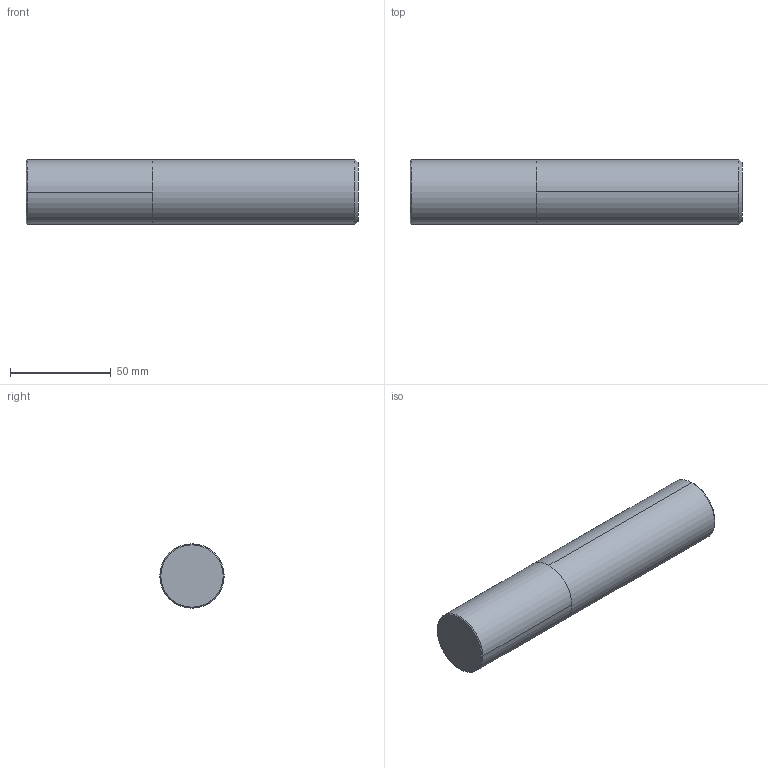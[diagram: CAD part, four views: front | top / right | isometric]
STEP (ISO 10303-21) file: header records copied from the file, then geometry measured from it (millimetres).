
FILE_DESCRIPTION (( 'STEP AP203' ), '1' );
FILE_NAME ('03-1776.STEP', '2021-09-10T07:26:27', ( 'USER' ), ( 'Hewlett-Packard Company' ), 'SwSTEP 2.0', 'SolidWorks 2014', '' );
FILE_SCHEMA (( 'CONFIG_CONTROL_DESIGN' ));
Length unit declared in the file: millimetre
Products named in the file (1): 03-1776
Bounding box: 165 x 32 x 32 mm (x, y, z)
Volume: 132578.9 mm3; surface area: 19683.6 mm2
Topology: 2 solids, 2 shells, 12 faces, 20 edges, 12 vertices
Faces by surface type: cylinder 4, cone 4, plane 4
Entity records: 359 total; most frequent: DIRECTION 58, CARTESIAN_POINT 45, ORIENTED_EDGE 40, AXIS2_PLACEMENT_3D 25, EDGE_CURVE 20, VERTEX_POINT 12, EDGE_LOOP 12, CIRCLE 12
